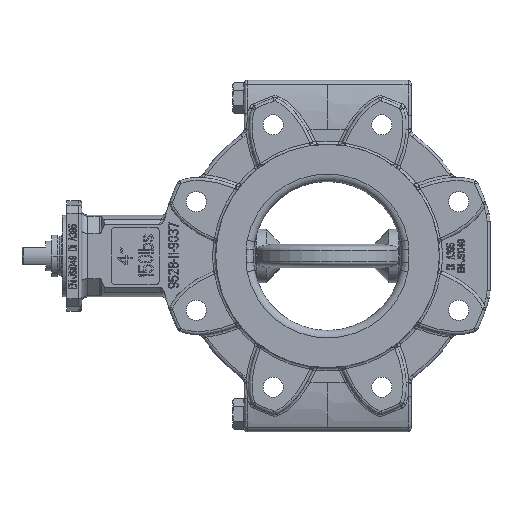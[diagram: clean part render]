
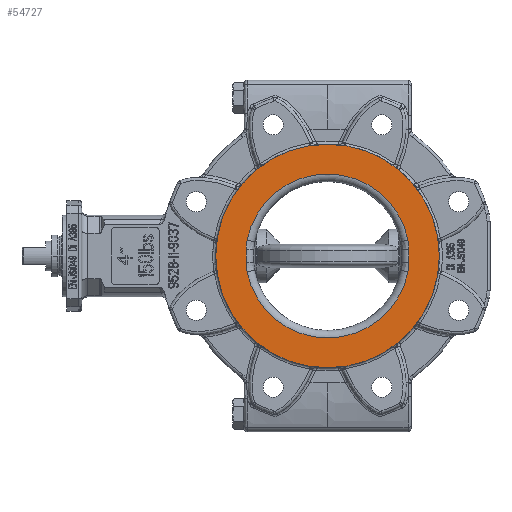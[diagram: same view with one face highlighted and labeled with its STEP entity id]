
A CAD part, left-side view. The second image highlights one B-rep face of the part: STEP entity #54727.
In plain terms, the highlighted planar face has unit normal (-1, 0, 0).
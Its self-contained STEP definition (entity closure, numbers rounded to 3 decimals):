
#2061=CARTESIAN_POINT('',(-26.,0.,0.));
#2062=DIRECTION('',(-1.,0.,0.));
#2063=DIRECTION('',(0.,0.,-1.));
#2064=AXIS2_PLACEMENT_3D('',#2061,#2062,#2063);
#2082=CARTESIAN_POINT('',(-26.,0.,0.));
#2083=DIRECTION('',(1.,0.,0.));
#2084=DIRECTION('',(0.,0.,-1.));
#2085=AXIS2_PLACEMENT_3D('',#2082,#2083,#2084);
#2099=CARTESIAN_POINT('',(-26.,0.,0.));
#2100=DIRECTION('',(1.,0.,0.));
#2101=DIRECTION('',(0.,-0.981,-0.192));
#2102=AXIS2_PLACEMENT_3D('',#2099,#2100,#2101);
#2109=CARTESIAN_POINT('',(-26.,53.977,
-10.559));
#2110=CARTESIAN_POINT('',(-26.,54.091,
-9.977));
#2111=CARTESIAN_POINT('',(-26.,54.287,
-8.742));
#2112=CARTESIAN_POINT('',(-26.,54.464,
-6.666));
#2113=CARTESIAN_POINT('',(-26.,54.496,
-5.133));
#2114=CARTESIAN_POINT('',(-26.,54.496,
-4.329));
#2129=DIRECTION('',(0.,0.,1.));
#2130=VECTOR('',#2129,8.658);
#2131=CARTESIAN_POINT('',(-26.,54.496,
-4.329));
#2132=LINE('',#2131,#2130);
#2142=CARTESIAN_POINT('',(-26.,54.496,4.329));
#2143=CARTESIAN_POINT('',(-26.,54.496,5.134));
#2144=CARTESIAN_POINT('',(-26.,54.464,6.669));
#2145=CARTESIAN_POINT('',(-26.,54.287,8.741));
#2146=CARTESIAN_POINT('',(-26.,54.091,9.977));
#2147=CARTESIAN_POINT('',(-26.,53.977,10.559));
#2172=CARTESIAN_POINT('',(-26.,0.,0.));
#2173=DIRECTION('',(1.,0.,0.));
#2174=DIRECTION('',(0.,0.981,0.192));
#2175=AXIS2_PLACEMENT_3D('',#2172,#2173,#2174);
#38179=CARTESIAN_POINT('',(-26.,-53.977,
-10.559));
#38180=CARTESIAN_POINT('',(-26.,-54.091,
-9.977));
#38181=CARTESIAN_POINT('',(-26.,-54.287,
-8.742));
#38182=CARTESIAN_POINT('',(-26.,-54.464,
-6.666));
#38183=CARTESIAN_POINT('',(-26.,-54.496,
-5.133));
#38184=CARTESIAN_POINT('',(-26.,-54.496,
-4.329));
#38199=DIRECTION('',(0.,0.,1.));
#38200=VECTOR('',#38199,8.658);
#38201=CARTESIAN_POINT('',(-26.,-54.496,
-4.329));
#38202=LINE('',#38201,#38200);
#38212=CARTESIAN_POINT('',(-26.,-54.496,
4.329));
#38213=CARTESIAN_POINT('',(-26.,-54.496,
5.134));
#38214=CARTESIAN_POINT('',(-26.,-54.464,
6.669));
#38215=CARTESIAN_POINT('',(-26.,-54.287,
8.741));
#38216=CARTESIAN_POINT('',(-26.,-54.091,
9.977));
#38217=CARTESIAN_POINT('',(-26.,-53.977,
10.559));
#52811=CARTESIAN_POINT('',(-26.,0.,-75.));
#52812=CARTESIAN_POINT('',(-26.,0.,75.));
#52813=VERTEX_POINT('',#52811);
#52814=VERTEX_POINT('',#52812);
#52823=VERTEX_POINT('',#2109);
#52824=VERTEX_POINT('',#2114);
#52827=CARTESIAN_POINT('',(-26.,54.496,
4.329));
#52828=VERTEX_POINT('',#52827);
#52831=VERTEX_POINT('',#2147);
#52844=VERTEX_POINT('',#38179);
#52845=VERTEX_POINT('',#38184);
#52848=CARTESIAN_POINT('',(-26.,-54.496,
4.329));
#52849=VERTEX_POINT('',#52848);
#52852=VERTEX_POINT('',#38217);
#54700=CARTESIAN_POINT('',(-26.,0.,0.));
#54701=DIRECTION('',(1.,0.,0.));
#54702=DIRECTION('',(0.,0.,-1.));
#54703=AXIS2_PLACEMENT_3D('',#54700,#54701,#54702);
#54704=PLANE('',#54703);
#54705=ORIENTED_EDGE('',*,*,#54632,.T.);
#54706=ORIENTED_EDGE('',*,*,#54576,.F.);
#54707=EDGE_LOOP('',(#54705,#54706));
#54708=FACE_OUTER_BOUND('',#54707,.F.);
#54710=ORIENTED_EDGE('',*,*,#54709,.F.);
#54712=ORIENTED_EDGE('',*,*,#54711,.T.);
#54714=ORIENTED_EDGE('',*,*,#54713,.T.);
#54716=ORIENTED_EDGE('',*,*,#54715,.T.);
#54718=ORIENTED_EDGE('',*,*,#54717,.F.);
#54720=ORIENTED_EDGE('',*,*,#54719,.F.);
#54722=ORIENTED_EDGE('',*,*,#54721,.F.);
#54724=ORIENTED_EDGE('',*,*,#54723,.F.);
#54725=EDGE_LOOP('',(#54710,#54712,#54714,#54716,#54718,#54720,#54722,#54724));
#54726=FACE_BOUND('',#54725,.F.);
#54727=ADVANCED_FACE('',(#54708,#54726),#54704,.F.);
#2065=CIRCLE('',#2064,75.);
#2086=CIRCLE('',#2085,75.);
#2103=CIRCLE('',#2102,55.);
#2115=B_SPLINE_CURVE_WITH_KNOTS('',3,(#2109,#2110,#2111,#2112,#2113,#2114),
.UNSPECIFIED.,.F.,.F.,(4,1,1,4),(0.,0.333,0.667,1.),
.UNSPECIFIED.);
#2148=B_SPLINE_CURVE_WITH_KNOTS('',3,(#2142,#2143,#2144,#2145,#2146,#2147),
.UNSPECIFIED.,.F.,.F.,(4,1,1,4),(0.,0.333,0.667,1.),
.UNSPECIFIED.);
#2176=CIRCLE('',#2175,55.);
#38185=B_SPLINE_CURVE_WITH_KNOTS('',3,(#38179,#38180,#38181,#38182,#38183,
#38184),.UNSPECIFIED.,.F.,.F.,(4,1,1,4),(0.,0.333,
0.667,1.),.UNSPECIFIED.);
#38218=B_SPLINE_CURVE_WITH_KNOTS('',3,(#38212,#38213,#38214,#38215,#38216,
#38217),.UNSPECIFIED.,.F.,.F.,(4,1,1,4),(0.,0.333,
0.667,1.),.UNSPECIFIED.);
#54576=EDGE_CURVE('',#52813,#52814,#2065,.T.);
#54632=EDGE_CURVE('',#52813,#52814,#2086,.T.);
#54709=EDGE_CURVE('',#52844,#52823,#2103,.T.);
#54711=EDGE_CURVE('',#52844,#52845,#38185,.T.);
#54713=EDGE_CURVE('',#52845,#52849,#38202,.T.);
#54715=EDGE_CURVE('',#52849,#52852,#38218,.T.);
#54717=EDGE_CURVE('',#52831,#52852,#2176,.T.);
#54719=EDGE_CURVE('',#52828,#52831,#2148,.T.);
#54721=EDGE_CURVE('',#52824,#52828,#2132,.T.);
#54723=EDGE_CURVE('',#52823,#52824,#2115,.T.);
